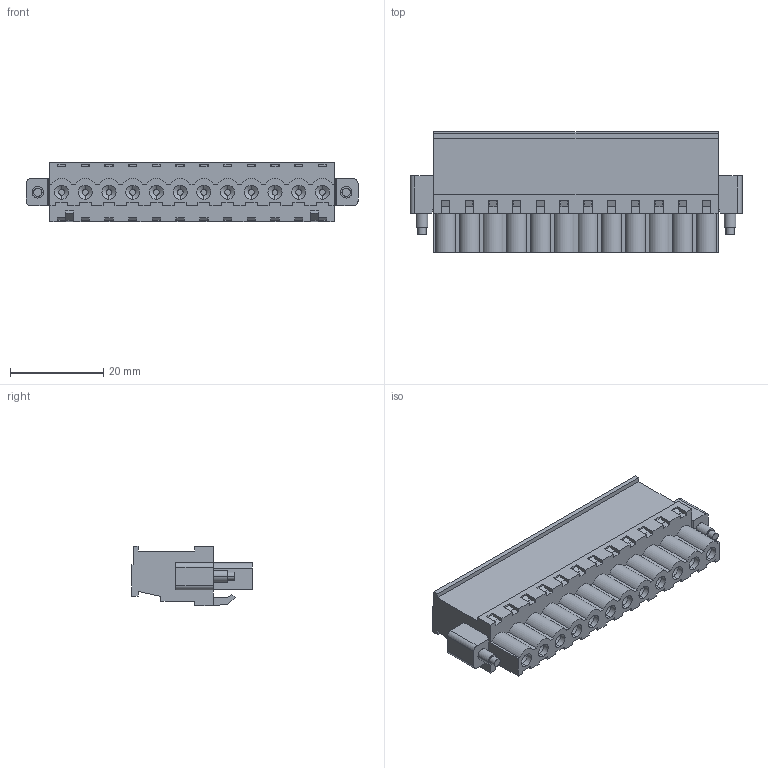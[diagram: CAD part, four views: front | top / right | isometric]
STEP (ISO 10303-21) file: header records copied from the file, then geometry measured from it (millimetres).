
FILE_DESCRIPTION((''),'2;1');
FILE_NAME('395373012','2015-02-24T',('me'),(''),'PRO/ENGINEER BY PARAMETRIC TECHNOLOGY CORPORATION, 2011490','PRO/ENGINEER BY PARAMETRIC TECHNOLOGY CORPORATION, 2011490','');
FILE_SCHEMA(('CONFIG_CONTROL_DESIGN'));
Length unit declared in the file: inch
Products named in the file (1): 395373012
Bounding box: 71.12 x 25.91 x 12.7 mm (x, y, z)
Volume: 13505.4 mm3; surface area: 7104.2 mm2
Topology: 1 solids, 1 shells, 758 faces, 2024 edges, 1346 vertices
Faces by surface type: plane 598, cylinder 88, cone 48, torus 24
Entity records: 23533 total; most frequent: CARTESIAN_POINT 4485, ORIENTED_EDGE 4016, DIRECTION 3774, EDGE_CURVE 2008, VECTOR 1600, LINE 1600, VERTEX_POINT 1314, AXIS2_PLACEMENT_3D 1087
